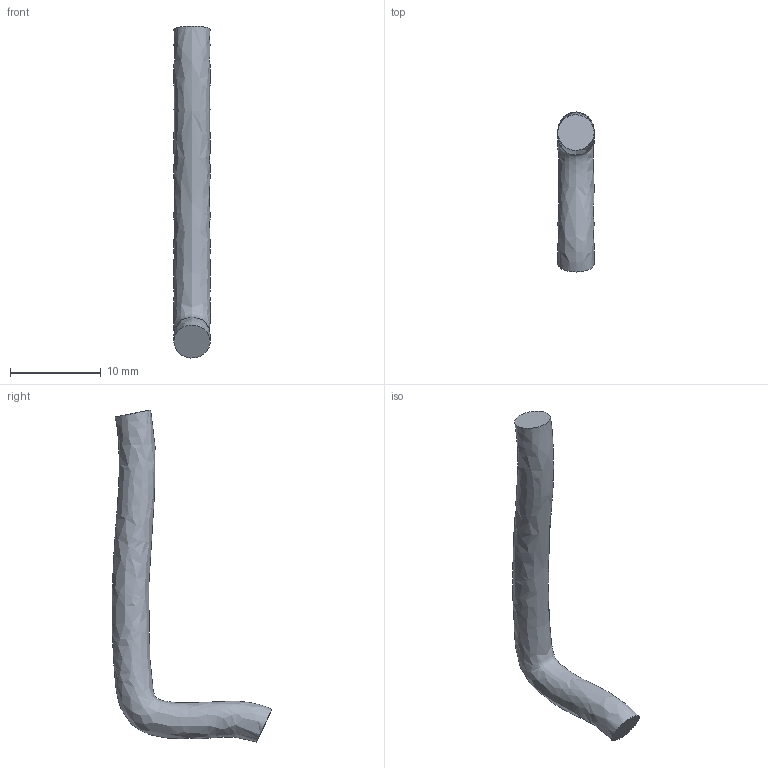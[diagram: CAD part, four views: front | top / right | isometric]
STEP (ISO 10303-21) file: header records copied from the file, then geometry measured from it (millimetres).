
FILE_DESCRIPTION(('Open CASCADE Model'),'2;1');
FILE_NAME('Open CASCADE Shape Model','2026-11-01T16:33:57',('Author'),( 'Open CASCADE'),'Open CASCADE STEP processor 8.0','build123d', 'Unknown');
FILE_SCHEMA(('AUTOMOTIVE_DESIGN { 1 0 10303 214 1 1 1 1 }'));
Length unit declared in the file: millimetre
Products named in the file (1): SOLID
Bounding box: 4 x 17.64 x 36.65 mm (x, y, z)
Volume: 587.4 mm3; surface area: 613.5 mm2
Topology: 1 solids, 1 shells, 3 faces, 5 edges, 4 vertices
Faces by surface type: plane 2, bspline 1
Entity records: 676 total; most frequent: CARTESIAN_POINT 582, DIRECTION 11, ORIENTED_EDGE 10, PCURVE 10, DEFINITIONAL_REPRESENTATION 10, EDGE_CURVE 5, LINE 5, VECTOR 5
